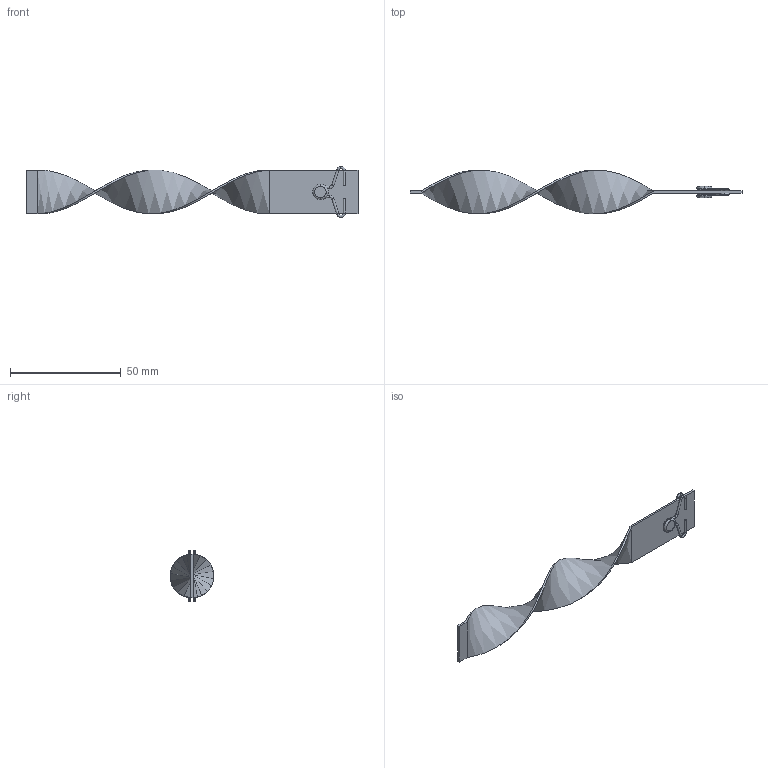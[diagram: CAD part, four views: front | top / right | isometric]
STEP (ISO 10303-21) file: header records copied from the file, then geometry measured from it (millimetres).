
FILE_DESCRIPTION (( 'STEP AP203' ), '1' );
FILE_NAME ('RLAS-20x150.STEP', '2016-02-12T07:14:30', ( 'Balzi' ), ( '' ), 'SwSTEP 2.0', 'SolidWorks 2015', '' );
FILE_SCHEMA (( 'CONFIG_CONTROL_DESIGN' ));
Length unit declared in the file: millimetre
Products named in the file (1): RLAS-20x150
Bounding box: 150 x 19.82 x 22.99 mm (x, y, z)
Volume: 3115.8 mm3; surface area: 7035 mm2
Topology: 5 solids, 5 shells, 92 faces, 178 edges, 96 vertices
Faces by surface type: torus 40, cylinder 30, plane 18, bspline 4
Entity records: 3183 total; most frequent: CARTESIAN_POINT 1187, DIRECTION 472, ORIENTED_EDGE 356, AXIS2_PLACEMENT_3D 209, EDGE_CURVE 178, CIRCLE 120, VERTEX_POINT 96, EDGE_LOOP 94
